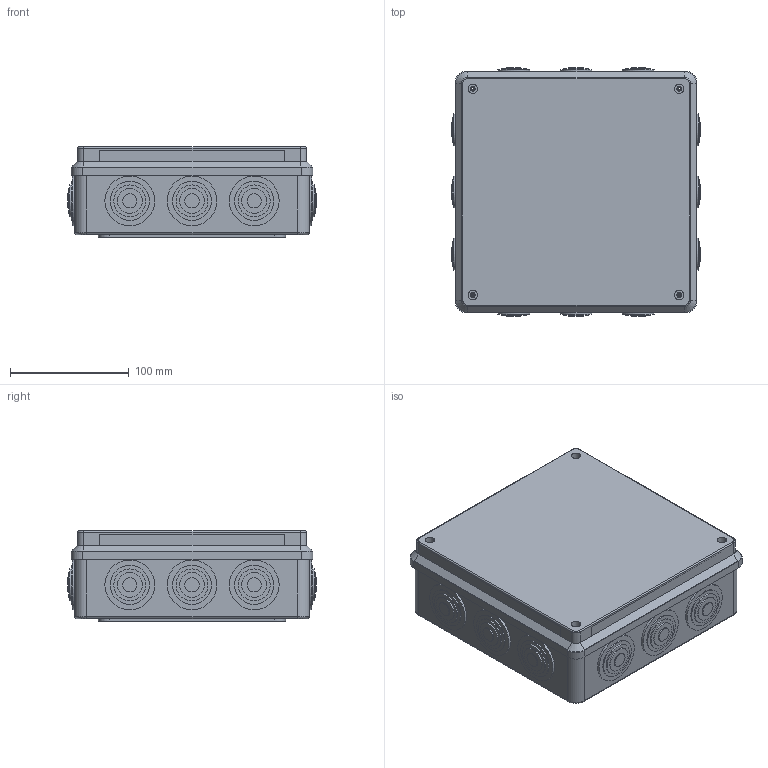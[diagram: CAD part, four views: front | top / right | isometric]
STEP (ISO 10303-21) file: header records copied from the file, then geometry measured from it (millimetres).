
FILE_DESCRIPTION (( 'STEP AP214' ), '1' );
FILE_NAME ('IOTFS_Assem1_200x200x80_weather_proof_box.STEP', '2024-08-17T11:08:13', ( '' ), ( '' ), 'SwSTEP 2.0', 'SolidWorks 2018', '' );
FILE_SCHEMA (( 'AUTOMOTIVE_DESIGN' ));
Length unit declared in the file: millimetre
Products named in the file (4): IOTFS_Part1_200x200x80_weatherproof_box; IOTFS_Part2_200x200x80_weatherproof_box_rubber_plugs; IOTFS_Assem1_200x200x80_weather_proof_box; IOTFS_Part3_200x200x80_weatherproof_box_lid
Assembly tree (14 placements, depth 2):
  IOTFS_Assem1_200x200x80_weather_proof_box
    IOTFS_Part1_200x200x80_weatherproof_box
    IOTFS_Part2_200x200x80_weatherproof_box_rubber_plugs  x12
    IOTFS_Part3_200x200x80_weatherproof_box_lid
Bounding box: 210 x 210 x 76 mm (x, y, z)
Volume: 367794.6 mm3; surface area: 362922.4 mm2
Topology: 86 solids, 86 shells, 969 faces, 2138 edges, 1400 vertices
Faces by surface type: cylinder 514, plane 403, torus 44, bspline 4, cone 4
Entity records: 16357 total; most frequent: DIRECTION 2933, CARTESIAN_POINT 2850, ORIENTED_EDGE 2604, EDGE_CURVE 1302, AXIS2_PLACEMENT_3D 1089, VERTEX_POINT 850, LINE 755, VECTOR 755
